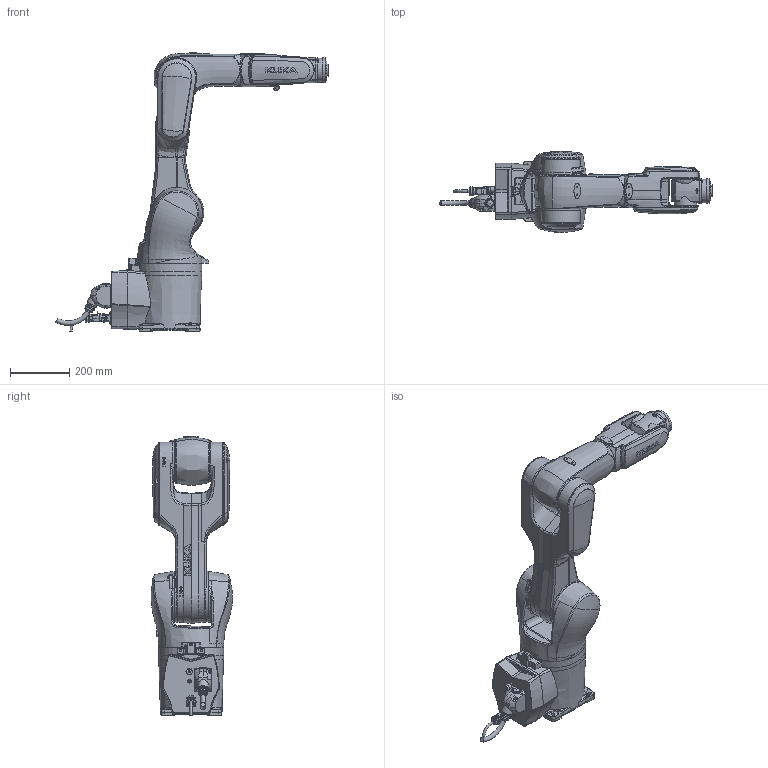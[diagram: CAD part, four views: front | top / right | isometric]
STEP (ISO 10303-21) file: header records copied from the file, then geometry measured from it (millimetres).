
FILE_DESCRIPTION(/* description */ (''),/* implementation_level */ '2;1');
FILE_NAME(/* name */ 'KR_6_R900-2.stp',/* time_stamp */ '2019-02-22T12:06:18+01:00',/* author */ (''),/* organization */ (''),/* preprocessor_version */ 'ST-DEVELOPER v15',/* originating_system */ 'SIEMENS PLM Software NX 9.0',/* authorisation */ '');
FILE_SCHEMA (('AUTOMOTIVE_DESIGN { 1 0 10303 214 3 1 1 1 }'));
Products named in the file (1): Grep19903787bknu
Bounding box: 917.92 x 273.23 x 939.5 mm (x, y, z)
Volume: 34679140.4 mm3; surface area: 1486167.5 mm2
Topology: 16 solids, 22 shells, 2101 faces, 5360 edges, 3439 vertices
Faces by surface type: bspline 797, plane 746, cylinder 347, cone 97, sphere 53, torus 40, extrusion 18, revolution 3
Full cylindrical faces by diameter (mm): 2 x1, 2.5 x1, 3.2 x2, 3.3 x1, 4 x11, 4.3 x3, 4.8 x5, 5 x13, 5.28 x2, 5.5 x2, 6 x9, 7 x9, 8 x7, 8.5 x4, 8.7 x2, 9 x4, 10 x6, 10.3 x4, 12 x1, 15.2 x2, 17 x2, 19.2 x1, 20 x1, 23 x1, 26.6 x2, 27.8 x2, 28 x1, 30 x2, 36 x1, 38 x1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
Entity records: 117187 total; most frequent: CARTESIAN_POINT 74303, ORIENTED_EDGE 10090, DIRECTION 6242, EDGE_CURVE 5045, VERTEX_POINT 3304, B_SPLINE_CURVE_WITH_KNOTS 2539, AXIS2_PLACEMENT_3D 2462, EDGE_LOOP 2435
